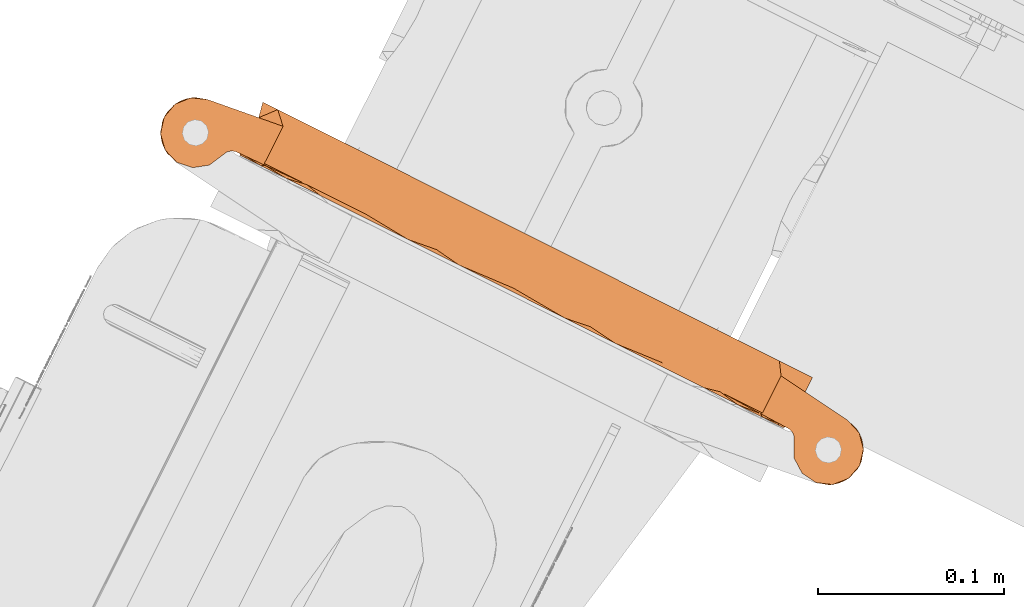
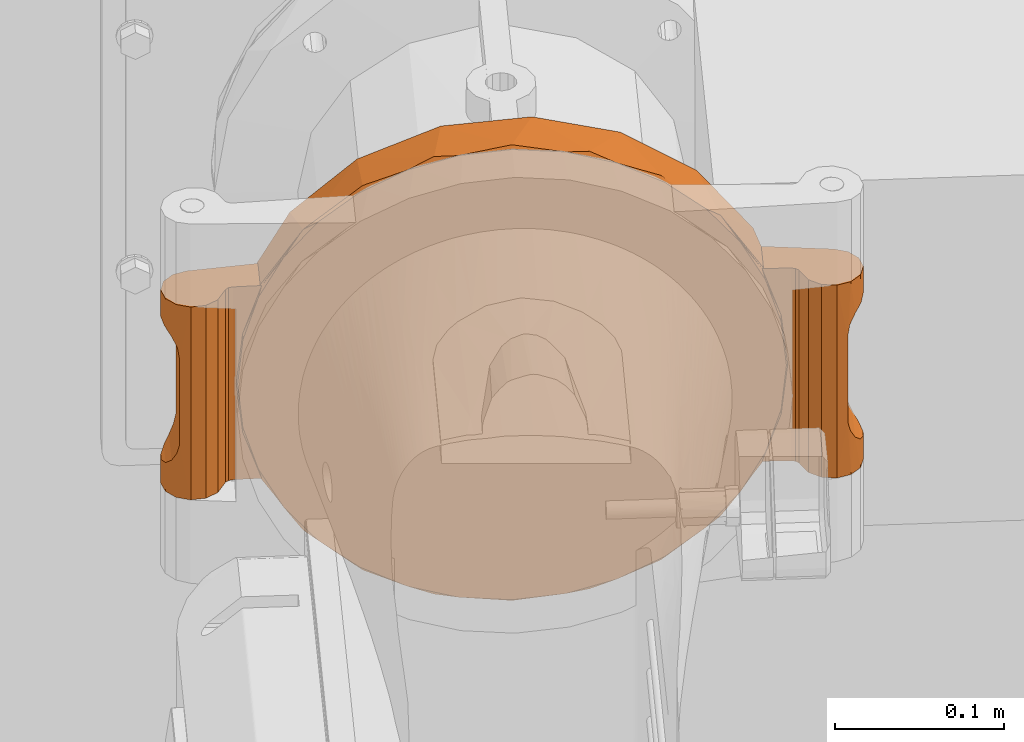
# One storey, part 183 of 206: 1 proxy.
"""IFC2X3 building model written with IfcOpenShell, lengths in metres."""

from ifc_helpers import new_model, si_unit, derived_unit, direction, frame, origin, place, context, subcontext, project, spatial, faceted_brep, source, transform, mapped, material, type_object, type_shapes, element, save


model = new_model("IFC2X3")

# Units and contexts
model_context = context("Model", 3, precision=5.2338327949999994e-05, world=origin(), true_north=direction((0.0, 1.0)))
body_context = subcontext(model_context, "Body", "Model", "MODEL_VIEW")
ifc_project = project(units=[si_unit("LENGTHUNIT", "METRE"), si_unit("AREAUNIT", "SQUARE_METRE"), si_unit("VOLUMEUNIT", "CUBIC_METRE"), si_unit("MASSUNIT", "GRAM", prefix="KILO"), si_unit("PLANEANGLEUNIT", "RADIAN"), derived_unit("THERMALTRANSMITTANCEUNIT", [(si_unit("MASSUNIT", "GRAM", prefix="KILO"), 1), (si_unit("THERMODYNAMICTEMPERATUREUNIT", "KELVIN"), -1), (si_unit("TIMEUNIT", "SECOND"), -3)])], contexts=[model_context])

# Site, building, storey
site_placement = place(None, frame((0.0, 0.0, 0.0), z_axis=(0.0, 0.0, 1.0), x_axis=(0.8939966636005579, -0.4480736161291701, 0.0)))
site = spatial("IfcSite", under=ifc_project, at=site_placement, Name="Default", CompositionType="ELEMENT")
building_placement = place(site_placement, origin())
building = spatial("IfcBuilding", under=site, at=building_placement, CompositionType="ELEMENT")
storey_placement = place(building_placement, origin())
storey = spatial("IfcBuildingStorey", under=building, at=storey_placement, Name="Erdgeschoss", CompositionType="ELEMENT", Elevation=0.0)

# Proxy
ifc_material = material(Name="IfcSurfaceStyle #626231")
building_element_proxy_type = type_object("IfcBuildingElementProxyType", Name="BuildingElementProxy 37:BuildingElementProxy 37", PredefinedType="NOTDEFINED", material=ifc_material)
shared_shape = source(origin(), body_context, "Body", "Brep", [
    faceted_brep([(21.633128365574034, 4.736804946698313, 0.9398002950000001), (21.590457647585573, 4.742097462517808, 0.9398002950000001), (21.606687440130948, 4.718615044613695, 0.9398002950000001), (21.590457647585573, 4.719855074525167, 0.9398002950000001), (21.589569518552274, 4.719050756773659, 0.9398002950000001), (21.609234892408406, 4.717955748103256, 0.9398002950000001), (21.611262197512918, 4.716278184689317, 0.9398002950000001), (21.61238656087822, 4.7138991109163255, 0.9398002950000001), (21.62383543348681, 4.700515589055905, 0.9398002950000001), (21.64134672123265, 4.702399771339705, 0.9398002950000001), (21.6164550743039, 4.705790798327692, 0.9398002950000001), (21.647435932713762, 4.709124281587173, 0.9398002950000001), (21.64968640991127, 4.717912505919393, 0.9398002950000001), (21.647578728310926, 4.726736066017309, 0.9398002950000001), (21.63282420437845, 4.699291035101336, 0.9398002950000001), (21.64159935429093, 4.7335584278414, 0.9398002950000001), (21.600916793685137, 4.718761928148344, 0.9057162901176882), (21.606687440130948, 4.718615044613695, 0.87), (21.604757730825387, 4.718664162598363, 0.87), (21.600916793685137, 4.718761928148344, 0.8342837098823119), (21.606687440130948, 4.718615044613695, 0.8001997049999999), (21.589569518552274, 4.719050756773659, 0.8001997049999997), (21.6394225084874, 4.73486703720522, 0.9010002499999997), (21.640686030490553, 4.73415639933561, 0.9089400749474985), (21.639422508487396, 4.701264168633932, 0.9010002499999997), (21.64068603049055, 4.701974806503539, 0.9089400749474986), (21.64422526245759, 4.731348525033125, 0.9155790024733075), (21.64422526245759, 4.7047826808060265, 0.9155790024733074), (21.646280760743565, 4.707247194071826, 0.9179381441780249), (21.64628076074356, 4.7288840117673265, 0.9179381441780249), (21.648070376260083, 4.710420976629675, 0.919559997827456), (21.648070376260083, 4.725710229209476, 0.919559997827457), (21.64968703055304, 4.718065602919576, 0.9207688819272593), (21.649663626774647, 4.71712575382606, 0.8188091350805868), (21.649663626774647, 4.719005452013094, 0.8188091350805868), (21.649476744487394, 4.715255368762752, 0.8188091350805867), (21.649476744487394, 4.720875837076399, 0.8188091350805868), (21.639422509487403, 4.734867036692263, 0.8390002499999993), (21.639422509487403, 4.701264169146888, 0.8390002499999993), (21.641109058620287, 4.733888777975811, 0.8318778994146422), (21.641109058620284, 4.7022424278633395, 0.8318778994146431), (21.644002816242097, 4.70456156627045, 0.8257282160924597), (21.647308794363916, 4.708891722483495, 0.8211246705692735), (21.64730879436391, 4.727239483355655, 0.8211246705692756), (21.64400281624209, 4.7315696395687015, 0.8257282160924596), (21.590457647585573, 4.719855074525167, 0.8001997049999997), (21.590457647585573, 4.742097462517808, 0.8001997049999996), (21.633128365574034, 4.736804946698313, 0.8001997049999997), (21.64159935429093, 4.7335584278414, 0.8001997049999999), (21.61238656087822, 4.7138991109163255, 0.8001997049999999), (21.611262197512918, 4.716278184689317, 0.8001997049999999), (21.609234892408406, 4.717955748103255, 0.8001997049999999), (21.647578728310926, 4.726736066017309, 0.8001997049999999), (21.64968640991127, 4.717912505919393, 0.8001997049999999), (21.647435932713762, 4.709124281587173, 0.8001997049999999), (21.6164550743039, 4.705790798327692, 0.8001997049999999), (21.64134672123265, 4.702399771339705, 0.8001997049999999), (21.62383543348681, 4.700515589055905, 0.8001997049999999), (21.63282420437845, 4.699291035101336, 0.8001997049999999), (21.60420288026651, 4.740392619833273, 0.8460613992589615), (21.605948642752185, 4.740176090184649, 0.87), (21.60420288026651, 4.7403926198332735, 0.8939386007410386), (21.394793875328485, 4.719855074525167, 0.7115857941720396), (21.352324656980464, 4.719855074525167, 0.7308196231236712), (21.350701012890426, 4.748855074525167, 0.7318668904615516), (21.316930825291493, 4.719855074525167, 0.7611651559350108), (21.310739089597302, 4.748855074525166, 0.7686544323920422), (21.291438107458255, 4.742097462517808, 0.8001997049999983), (21.284887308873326, 4.748855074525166, 0.8164243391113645), (21.277692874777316, 4.740392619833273, 0.8460613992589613), (21.275947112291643, 4.748855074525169, 0.8699999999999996), (21.277692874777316, 4.740392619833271, 0.8939386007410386), (21.284887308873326, 4.748855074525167, 0.9235756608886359), (21.291438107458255, 4.742097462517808, 0.9398002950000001), (21.310739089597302, 4.748855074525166, 0.9713455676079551), (21.316930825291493, 4.719855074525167, 0.9788348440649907), (21.350701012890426, 4.748855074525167, 1.00813310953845), (21.352324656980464, 4.719855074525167, 1.0091803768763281), (21.394793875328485, 4.719855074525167, 1.0284142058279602), (21.40044258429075, 4.748855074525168, 0.710048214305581), (21.44094787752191, 4.719855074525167, 0.7049992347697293), (21.45457353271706, 4.748855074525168, 0.7055627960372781), (21.487101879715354, 4.719855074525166, 0.7115857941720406), (21.507227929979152, 4.748855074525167, 0.7188967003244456), (21.529571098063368, 4.719855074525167, 0.7308196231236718), (21.552699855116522, 4.748855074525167, 0.748604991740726), (21.564964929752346, 4.719855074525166, 0.761165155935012), (21.586061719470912, 4.748855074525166, 0.7914683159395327), (21.603698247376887, 4.748855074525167, 0.8428417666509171), (21.605948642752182, 4.748855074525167, 0.8700000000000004), (21.603698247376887, 4.748855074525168, 0.8971582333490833), (21.586061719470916, 4.748855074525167, 0.9485316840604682), (21.564964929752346, 4.719855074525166, 0.9788348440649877), (21.552699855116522, 4.748855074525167, 0.9913950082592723), (21.529571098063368, 4.719855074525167, 1.009180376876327), (21.507227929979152, 4.748855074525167, 1.021103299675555), (21.487101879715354, 4.719855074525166, 1.0284142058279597), (21.45457353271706, 4.748855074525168, 1.0344372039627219), (21.44094787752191, 4.719855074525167, 1.0350007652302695), (21.40044258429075, 4.748855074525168, 1.0299517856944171), (21.291438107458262, 4.719855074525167, 0.8001997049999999), (21.291438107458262, 4.719855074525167, 0.9398002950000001), (21.576478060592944, 4.717855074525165, 0.9605583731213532), (21.591540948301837, 4.717855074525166, 0.9323776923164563), (21.556206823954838, 4.717855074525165, 0.98525894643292), (21.53150625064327, 4.717855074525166, 1.0055301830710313), (21.503325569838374, 4.717855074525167, 1.0205930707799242), (21.472747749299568, 4.717855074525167, 1.0298687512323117), (21.44094787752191, 4.717855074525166, 1.0330007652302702), (21.409148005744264, 4.717855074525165, 1.0298687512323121), (21.378570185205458, 4.717855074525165, 1.0205930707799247), (21.350389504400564, 4.717855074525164, 1.0055301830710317), (21.325688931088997, 4.717855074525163, 0.9852589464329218), (21.305417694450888, 4.717855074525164, 0.9605583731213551), (21.292326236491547, 4.719050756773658, 0.9398002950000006), (21.290354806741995, 4.717855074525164, 0.9323776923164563), (21.28097896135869, 4.718761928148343, 0.9057162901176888), (21.2810791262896, 4.717855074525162, 0.9017998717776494), (21.27713802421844, 4.718664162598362, 0.8700000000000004), (21.27794711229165, 4.717855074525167, 0.8700000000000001), (21.2810791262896, 4.717855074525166, 0.8382001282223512), (21.28097896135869, 4.718761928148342, 0.8342837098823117), (21.290354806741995, 4.717855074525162, 0.8076223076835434), (21.292326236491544, 4.719050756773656, 0.8001997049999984), (21.305417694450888, 4.717855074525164, 0.7794416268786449), (21.325688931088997, 4.717855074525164, 0.754741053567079), (21.350389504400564, 4.717855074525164, 0.7344698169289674), (21.378570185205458, 4.717855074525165, 0.719406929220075), (21.409148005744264, 4.717855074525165, 0.7101312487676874), (21.44094787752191, 4.717855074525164, 0.7069992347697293), (21.472747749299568, 4.717855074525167, 0.7101312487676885), (21.503325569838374, 4.717855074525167, 0.7194069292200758), (21.53150625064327, 4.717855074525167, 0.7344698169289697), (21.556206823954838, 4.717855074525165, 0.7547410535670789), (21.576478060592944, 4.717855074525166, 0.7794416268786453), (21.591540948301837, 4.717855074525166, 0.8076223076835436), (21.60081662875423, 4.717855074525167, 0.8382001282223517), (21.603948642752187, 4.717855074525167, 0.87), (21.60081662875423, 4.717855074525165, 0.9017998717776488), (21.24876738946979, 4.736804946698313, 0.9398002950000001), (21.24876738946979, 4.736804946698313, 0.8001997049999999), (21.275208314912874, 4.7186150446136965, 0.8001997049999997), (21.272660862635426, 4.717955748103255, 0.8001997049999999), (21.270633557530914, 4.716278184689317, 0.8001997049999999), (21.26950919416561, 4.713899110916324, 0.8001997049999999), (21.25806032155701, 4.700515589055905, 0.8001997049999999), (21.240549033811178, 4.702399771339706, 0.8001997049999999), (21.26544068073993, 4.705790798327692, 0.8001997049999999), (21.234459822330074, 4.709124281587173, 0.8001997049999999), (21.23220934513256, 4.717912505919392, 0.8001997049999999), (21.234317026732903, 4.726736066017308, 0.8001997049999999), (21.24907155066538, 4.699291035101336, 0.8001997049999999), (21.240296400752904, 4.7335584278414, 0.8001997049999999), (21.242473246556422, 4.701264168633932, 0.9010002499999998), (21.24120972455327, 4.701974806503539, 0.9089400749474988), (21.24247324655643, 4.73486703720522, 0.90100025), (21.241209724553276, 4.734156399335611, 0.9089400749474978), (21.23767049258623, 4.704782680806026, 0.915579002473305), (21.237670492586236, 4.731348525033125, 0.915579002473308), (21.235614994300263, 4.7288840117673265, 0.9179381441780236), (21.235614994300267, 4.707247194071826, 0.917938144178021), (21.233825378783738, 4.7257102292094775, 0.9195599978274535), (21.233825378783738, 4.710420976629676, 0.9195599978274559), (21.232208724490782, 4.718065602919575, 0.9207688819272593), (21.232419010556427, 4.720875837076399, 0.8188091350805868), (21.23223212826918, 4.719005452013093, 0.8188091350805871), (21.232419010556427, 4.715255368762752, 0.8188091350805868), (21.23223212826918, 4.7171257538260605, 0.8188091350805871), (21.24247324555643, 4.701264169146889, 0.8390002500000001), (21.24247324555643, 4.734867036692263, 0.8390002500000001), (21.240786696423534, 4.70224242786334, 0.831877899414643), (21.240786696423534, 4.733888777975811, 0.831877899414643), (21.237892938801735, 4.731569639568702, 0.8257282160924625), (21.23458696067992, 4.727239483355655, 0.8211246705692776), (21.23458696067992, 4.7088917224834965, 0.8211246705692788), (21.237892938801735, 4.70456156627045, 0.8257282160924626), (21.275208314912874, 4.7186150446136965, 0.87), (21.275208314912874, 4.718615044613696, 0.9398002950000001), (21.240296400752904, 4.7335584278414, 0.9398002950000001), (21.234317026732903, 4.726736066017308, 0.9398002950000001), (21.26950919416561, 4.713899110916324, 0.9398002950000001), (21.270633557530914, 4.716278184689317, 0.9398002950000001), (21.23220934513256, 4.717912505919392, 0.9398002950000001), (21.234459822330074, 4.709124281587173, 0.9398002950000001), (21.26544068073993, 4.705790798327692, 0.9398002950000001), (21.240549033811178, 4.702399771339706, 0.9398002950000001), (21.25806032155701, 4.700515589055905, 0.9398002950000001), (21.24907155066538, 4.6992910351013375, 0.9398002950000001), (21.272660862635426, 4.717955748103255, 0.9398002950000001)], [[[0, 1, 2]], [[2, 1, 3]], [[2, 3, 4]], [[2, 5, 0]], [[0, 5, 6]], [[0, 6, 7]], [[8, 9, 10]], [[10, 9, 11]], [[10, 11, 7]], [[7, 11, 12]], [[7, 12, 13]], [[8, 14, 9]], [[15, 0, 13]], [[13, 0, 7]], [[4, 16, 2]], [[2, 16, 17]], [[16, 18, 17]], [[17, 18, 19]], [[17, 19, 20]], [[20, 19, 21]], [[22, 23, 24]], [[24, 23, 25]], [[23, 26, 25]], [[25, 26, 27]], [[27, 26, 28]], [[28, 26, 29]], [[28, 29, 30]], [[30, 29, 31]], [[30, 31, 32]], [[33, 34, 35]], [[35, 34, 36]], [[37, 38, 39]], [[39, 38, 40]], [[39, 40, 41]], [[35, 36, 42]], [[42, 36, 43]], [[42, 43, 41]], [[41, 43, 44]], [[41, 44, 39]], [[38, 37, 24]], [[24, 37, 22]], [[21, 45, 20]], [[20, 45, 46]], [[20, 46, 47]], [[48, 49, 47]], [[47, 49, 50]], [[47, 50, 51]], [[48, 52, 49]], [[49, 52, 53]], [[49, 53, 54]], [[49, 54, 55]], [[55, 54, 56]], [[55, 56, 57]], [[57, 56, 58]], [[51, 20, 47]], [[46, 59, 47]], [[47, 59, 60]], [[47, 60, 0]], [[0, 60, 61]], [[0, 61, 1]], [[34, 53, 36]], [[36, 53, 52]], [[36, 52, 43]], [[43, 52, 44]], [[34, 33, 53]], [[53, 33, 35]], [[53, 35, 54]], [[54, 35, 42]], [[54, 42, 41]], [[54, 41, 56]], [[56, 41, 40]], [[56, 40, 38]], [[25, 9, 24]], [[24, 9, 14]], [[24, 14, 38]], [[38, 14, 58]], [[38, 58, 56]], [[25, 27, 9]], [[9, 27, 11]], [[27, 28, 11]], [[11, 28, 30]], [[11, 30, 12]], [[12, 30, 32]], [[12, 32, 31]], [[12, 31, 13]], [[13, 31, 29]], [[13, 29, 26]], [[13, 26, 15]], [[15, 26, 23]], [[15, 23, 22]], [[39, 48, 37]], [[37, 48, 47]], [[37, 47, 22]], [[22, 47, 0]], [[22, 0, 15]], [[39, 44, 48]], [[48, 44, 52]], [[14, 8, 58]], [[58, 8, 57]], [[8, 10, 57]], [[57, 10, 55]], [[10, 7, 55]], [[55, 7, 49]], [[7, 6, 49]], [[49, 6, 50]], [[6, 5, 50]], [[50, 5, 51]], [[2, 17, 5]], [[5, 17, 51]], [[17, 20, 51]], [[62, 63, 64]], [[64, 63, 65]], [[64, 65, 66]], [[66, 65, 67]], [[66, 67, 68]], [[68, 67, 69]], [[68, 69, 70]], [[70, 69, 71]], [[70, 71, 72]], [[72, 71, 73]], [[72, 73, 74]], [[74, 73, 75]], [[74, 75, 76]], [[76, 75, 77]], [[76, 77, 78]], [[64, 79, 62]], [[62, 79, 80]], [[79, 81, 80]], [[80, 81, 82]], [[81, 83, 82]], [[82, 83, 84]], [[83, 85, 84]], [[84, 85, 86]], [[85, 87, 86]], [[86, 87, 46]], [[86, 46, 45]], [[87, 88, 46]], [[46, 88, 59]], [[88, 89, 59]], [[59, 89, 60]], [[60, 89, 61]], [[61, 89, 90]], [[61, 90, 1]], [[1, 90, 91]], [[1, 91, 92]], [[92, 91, 93]], [[92, 93, 94]], [[94, 93, 95]], [[94, 95, 96]], [[96, 95, 97]], [[96, 97, 98]], [[98, 97, 99]], [[98, 99, 78]], [[78, 99, 76]], [[3, 1, 92]], [[65, 100, 67]], [[73, 101, 75]], [[3, 92, 4]], [[4, 92, 102]], [[4, 102, 103]], [[102, 92, 104]], [[104, 92, 94]], [[104, 94, 105]], [[105, 94, 106]], [[94, 96, 106]], [[106, 96, 107]], [[96, 98, 107]], [[107, 98, 108]], [[108, 98, 109]], [[109, 98, 78]], [[109, 78, 110]], [[110, 78, 77]], [[110, 77, 111]], [[111, 77, 112]], [[77, 75, 112]], [[112, 75, 113]], [[101, 114, 75]], [[75, 114, 113]], [[113, 114, 115]], [[115, 114, 116]], [[115, 116, 117]], [[117, 116, 118]], [[117, 118, 119]], [[119, 118, 120]], [[118, 121, 120]], [[120, 121, 122]], [[121, 123, 122]], [[122, 123, 124]], [[100, 65, 123]], [[123, 65, 124]], [[124, 65, 125]], [[125, 65, 63]], [[125, 63, 126]], [[126, 63, 127]], [[63, 62, 127]], [[127, 62, 128]], [[62, 80, 128]], [[128, 80, 129]], [[129, 80, 130]], [[130, 80, 82]], [[130, 82, 131]], [[131, 82, 84]], [[131, 84, 132]], [[132, 84, 133]], [[84, 86, 133]], [[133, 86, 134]], [[45, 21, 86]], [[86, 21, 134]], [[134, 21, 135]], [[135, 21, 19]], [[135, 19, 136]], [[136, 19, 18]], [[136, 18, 137]], [[137, 18, 138]], [[18, 16, 138]], [[138, 16, 103]], [[16, 4, 103]], [[128, 130, 127]], [[127, 130, 131]], [[127, 131, 126]], [[126, 131, 132]], [[126, 132, 125]], [[125, 132, 133]], [[125, 133, 124]], [[124, 133, 134]], [[124, 134, 122]], [[122, 134, 135]], [[122, 135, 120]], [[120, 135, 136]], [[120, 136, 119]], [[119, 136, 137]], [[119, 137, 117]], [[117, 137, 138]], [[117, 138, 115]], [[115, 138, 103]], [[115, 103, 113]], [[113, 103, 102]], [[113, 102, 112]], [[112, 102, 104]], [[112, 104, 111]], [[111, 104, 105]], [[111, 105, 110]], [[110, 105, 106]], [[110, 106, 109]], [[109, 106, 107]], [[109, 107, 108]], [[128, 129, 130]], [[99, 95, 76]], [[76, 95, 93]], [[76, 93, 74]], [[74, 93, 91]], [[74, 91, 72]], [[72, 91, 90]], [[72, 90, 70]], [[70, 90, 89]], [[70, 89, 68]], [[68, 89, 88]], [[68, 88, 87]], [[99, 97, 95]], [[68, 87, 66]], [[66, 87, 85]], [[66, 85, 64]], [[64, 85, 83]], [[64, 83, 79]], [[79, 83, 81]], [[73, 71, 139]], [[139, 71, 69]], [[139, 69, 140]], [[140, 69, 67]], [[140, 67, 141]], [[141, 67, 100]], [[141, 100, 123]], [[141, 142, 140]], [[140, 142, 143]], [[140, 143, 144]], [[145, 146, 147]], [[147, 146, 148]], [[147, 148, 144]], [[144, 148, 149]], [[144, 149, 150]], [[145, 151, 146]], [[150, 152, 144]], [[144, 152, 140]], [[153, 154, 155]], [[155, 154, 156]], [[154, 157, 156]], [[156, 157, 158]], [[158, 157, 159]], [[159, 157, 160]], [[159, 160, 161]], [[161, 160, 162]], [[161, 162, 163]], [[164, 165, 166]], [[166, 165, 167]], [[168, 169, 170]], [[170, 169, 171]], [[170, 171, 172]], [[164, 166, 173]], [[173, 166, 174]], [[173, 174, 172]], [[172, 174, 175]], [[172, 175, 170]], [[155, 169, 153]], [[153, 169, 168]], [[123, 121, 141]], [[141, 121, 176]], [[121, 118, 176]], [[176, 118, 116]], [[176, 116, 177]], [[177, 116, 114]], [[114, 101, 177]], [[177, 101, 73]], [[177, 73, 139]], [[178, 179, 139]], [[139, 179, 180]], [[139, 180, 181]], [[179, 182, 180]], [[180, 182, 183]], [[180, 183, 184]], [[184, 183, 185]], [[184, 185, 186]], [[186, 185, 187]], [[181, 188, 139]], [[139, 188, 177]], [[167, 149, 166]], [[166, 149, 148]], [[166, 148, 174]], [[174, 148, 175]], [[167, 165, 149]], [[149, 165, 164]], [[149, 164, 150]], [[150, 164, 173]], [[150, 173, 172]], [[150, 172, 152]], [[152, 172, 171]], [[152, 171, 169]], [[156, 178, 155]], [[155, 178, 139]], [[155, 139, 169]], [[169, 139, 140]], [[169, 140, 152]], [[156, 158, 178]], [[178, 158, 159]], [[178, 159, 179]], [[179, 159, 161]], [[179, 161, 182]], [[182, 161, 163]], [[182, 163, 162]], [[182, 162, 183]], [[183, 162, 160]], [[183, 160, 157]], [[183, 157, 185]], [[185, 157, 154]], [[185, 154, 153]], [[170, 146, 168]], [[168, 146, 151]], [[168, 151, 153]], [[153, 151, 187]], [[153, 187, 185]], [[170, 175, 146]], [[146, 175, 148]], [[180, 184, 144]], [[144, 184, 147]], [[184, 186, 147]], [[147, 186, 145]], [[186, 187, 145]], [[145, 187, 151]], [[177, 188, 176]], [[176, 188, 142]], [[176, 142, 141]], [[188, 181, 142]], [[142, 181, 143]], [[181, 180, 143]], [[143, 180, 144]]]),
])
type_shapes(building_element_proxy_type, [shared_shape])
proxy_placement = place(storey_placement, origin())
element("IfcBuildingElementProxy", 1, at=proxy_placement, inside=storey, type_object=building_element_proxy_type, material=ifc_material, Name="BuildingElementProxy 37", context=body_context, shape_type="MappedRepresentation", body=[
    mapped(shared_shape, transform((0.0, 0.0, 0.0), scale=1.0)),
])

save(model, "model.ifc")
